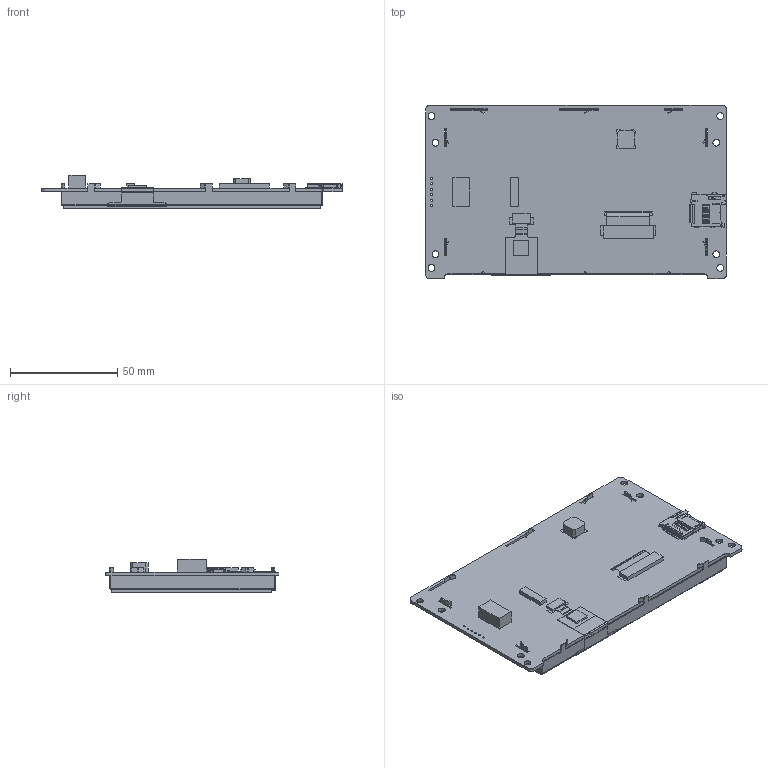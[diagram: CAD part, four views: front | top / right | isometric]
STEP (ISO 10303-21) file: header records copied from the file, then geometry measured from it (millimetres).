
FILE_DESCRIPTION(/* description */ (''),/* implementation_level */ '2;1');
FILE_NAME(/* name */ '',/* time_stamp */ '2023-11-20T18:53:44+08:00',/* author */ (''),/* organization */ (''),/* preprocessor_version */ 'ST-DEVELOPER v11',/* originating_system */ 'SIEMENS PLM Software NX 7.5',/* authorisation */ '');
FILE_SCHEMA (('AP203_CONFIGURATION_CONTROLLED_3D_DESIGN_OF_MECHANICAL_PARTS_AND_ASSEMBLIES_MIM_LF'));
Length unit declared in the file: millimetre
Products named in the file (1): SDWb050T84AC_stp
Bounding box: 140 x 80.9 x 15.6 mm (x, y, z)
Volume: 35157 mm3; surface area: 57346 mm2
Topology: 18 solids, 18 shells, 1258 faces, 3565 edges, 2320 vertices
Faces by surface type: plane 960, cylinder 296, cone 1, extrusion 1
Full cylindrical faces by diameter (mm): 0.889 x6, 3.2 x8
Entity records: 41918 total; most frequent: CARTESIAN_POINT 7480, ORIENTED_EDGE 7100, DIRECTION 6594, EDGE_CURVE 3550, VECTOR 2882, LINE 2881, VERTEX_POINT 2320, AXIS2_PLACEMENT_3D 1856
